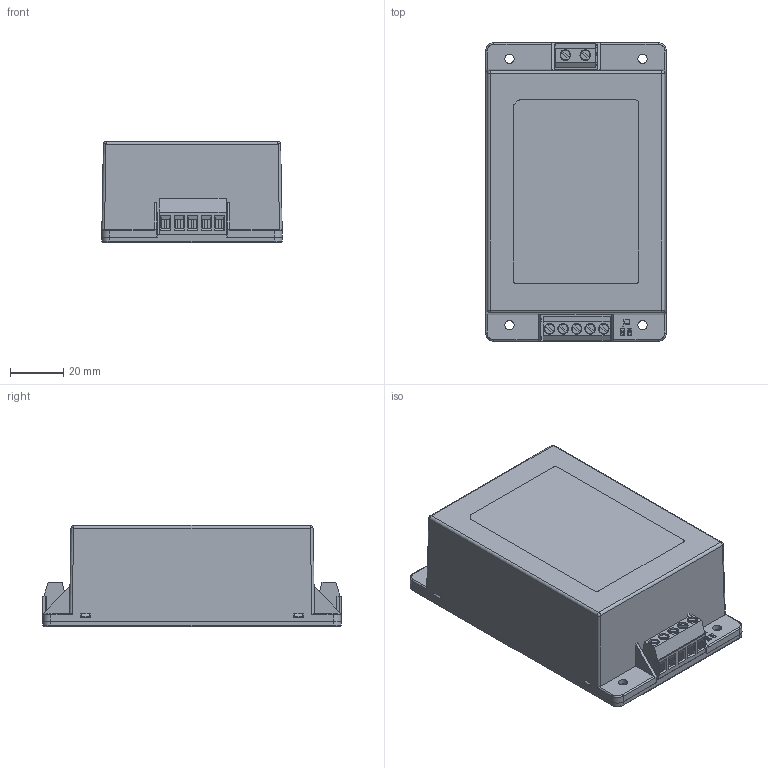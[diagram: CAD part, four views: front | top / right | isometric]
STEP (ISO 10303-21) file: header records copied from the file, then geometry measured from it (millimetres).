
FILE_DESCRIPTION (( 'STEP AP214' ), '1' );
FILE_NAME ('tmm60-chassis.STEP', '2015-09-02T06:37:18', ( '' ), ( '' ), 'SwSTEP 2.0', 'SolidWorks 2013', '' );
FILE_SCHEMA (( 'AUTOMOTIVE_DESIGN' ));
Length unit declared in the file: millimetre
Products named in the file (5): tmm60c-case; Connect(2 PIN)_2; Connect(5 PIN)_2; tmm60c-base; tmm60-chassis
Assembly tree (4 placements, depth 2):
  tmm60-chassis
    tmm60c-base
    Connect(5 PIN)_2
    Connect(2 PIN)_2
    tmm60c-case
Bounding box: 67.8 x 112 x 38 mm (x, y, z)
Volume: 208379.3 mm3; surface area: 49638.7 mm2
Topology: 5 solids, 5 shells, 659 faces, 1717 edges, 1127 vertices
Faces by surface type: plane 441, cylinder 160, bspline 50, torus 4, cone 4
Entity records: 25573 total; most frequent: CARTESIAN_POINT 5267, ORIENTED_EDGE 3430, DIRECTION 3100, EDGE_CURVE 1715, VECTOR 1280, LINE 1280, VERTEX_POINT 1127, AXIS2_PLACEMENT_3D 910
